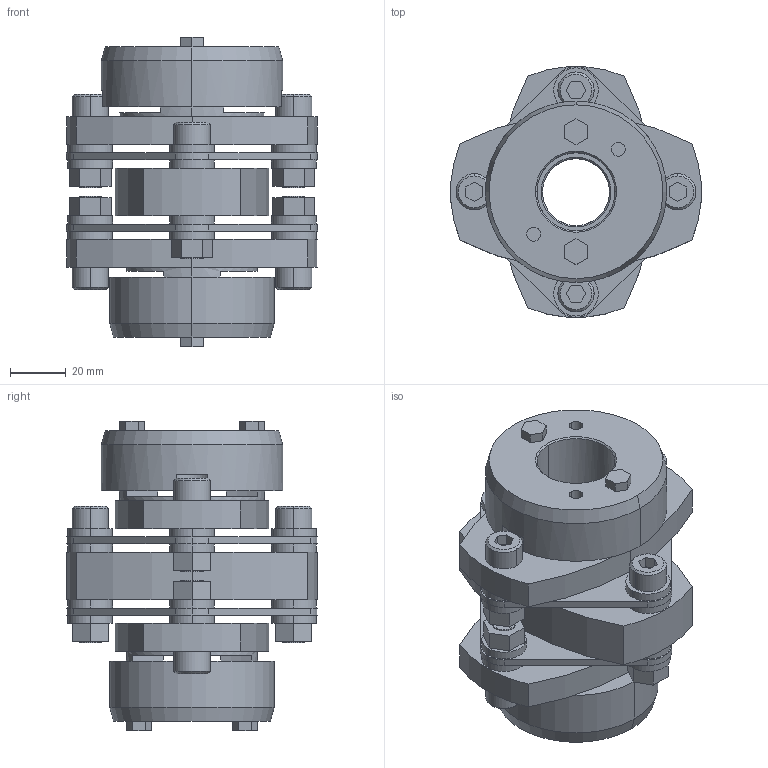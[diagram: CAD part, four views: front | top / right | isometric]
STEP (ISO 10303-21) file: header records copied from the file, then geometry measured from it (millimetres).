
FILE_DESCRIPTION((''),'2;1');
FILE_NAME('LCD-90T7-24×28.stp','2015-11-01T19:28:30',(''),(''),'AutoCAD STEP 2000i','AutoCAD 2000i',', , ');
FILE_SCHEMA(('CONFIG_CONTROL_DESIGN'));
Length unit declared in the file: millimetre
Products named in the file (8): LCD-90T7-25×30; 忣兜1; LC90T7-T030; LC90T7-T025-1; LC90T7-T025; LC90T7-T019-1; LC90T7-T019; LCD90-ITA
Assembly tree (7 placements, depth 2):
  LCD-90T7-25×30
    忣兜1
    LC90T7-T030
    LC90T7-T025-1
    LC90T7-T025
    LC90T7-T019-1
    LC90T7-T019
    LCD90-ITA
Bounding box: 90 x 89.94 x 111 mm (x, y, z)
Volume: 276414 mm3; surface area: 74514.7 mm2
Topology: 1 solids, 1 shells, 310 faces, 756 edges, 496 vertices
Faces by surface type: plane 164, cylinder 122, cone 24
Entity records: 9401 total; most frequent: DIRECTION 1680, CARTESIAN_POINT 1570, ORIENTED_EDGE 1512, EDGE_CURVE 756, AXIS2_PLACEMENT_3D 606, VERTEX_POINT 496, VECTOR 468, LINE 468
